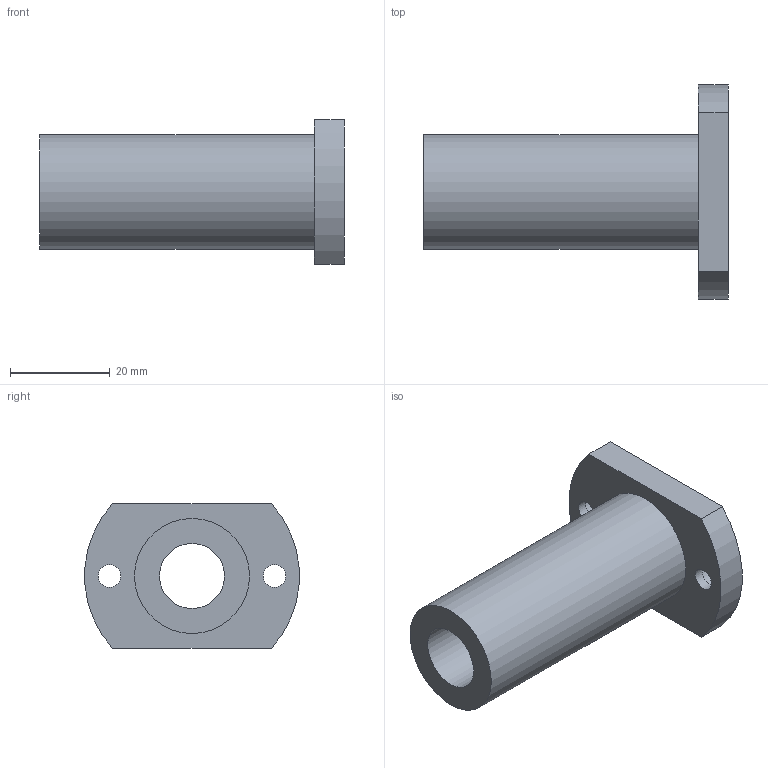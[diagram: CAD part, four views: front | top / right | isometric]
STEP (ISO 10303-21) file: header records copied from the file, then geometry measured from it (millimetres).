
FILE_DESCRIPTION(/* description */ ('Unknown'),/* implementation_level */ '2;1');
FILE_NAME(/* name */ 'LMH13LUU',/* time_stamp */ '2025-02-04T10:29:05+08:00',/* author */ ('Unknown'),/* organization */ ('Unknown'),/* preprocessor_version */ 'ST-DEVELOPER v18.102',/* originating_system */ 'Solid Edge',/* authorisation */ 'Unknown');
FILE_SCHEMA (('AUTOMOTIVE_DESIGN {1 0 10303 214 3 1 1}'));
Length unit declared in the file: millimetre
Products named in the file (1): LMH13LUU
Bounding box: 61 x 42.85 x 29 mm (x, y, z)
Volume: 21199.7 mm3; surface area: 9435.5 mm2
Topology: 1 solids, 1 shells, 15 faces, 30 edges, 20 vertices
Faces by surface type: cylinder 8, plane 7
Full cylindrical faces by diameter (mm): 4.5 x2, 7.5 x2, 13 x1, 23 x1
Entity records: 412 total; most frequent: DIRECTION 72, CARTESIAN_POINT 60, ORIENTED_EDGE 48, AXIS2_PLACEMENT_3D 32, EDGE_LOOP 30, FACE_BOUND 30, EDGE_CURVE 24, VERTEX_POINT 20
